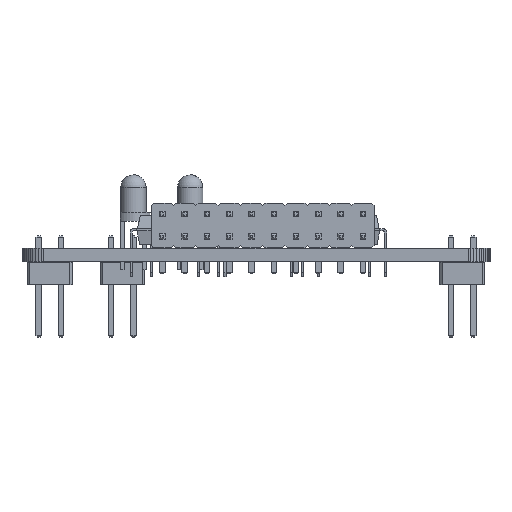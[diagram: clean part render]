
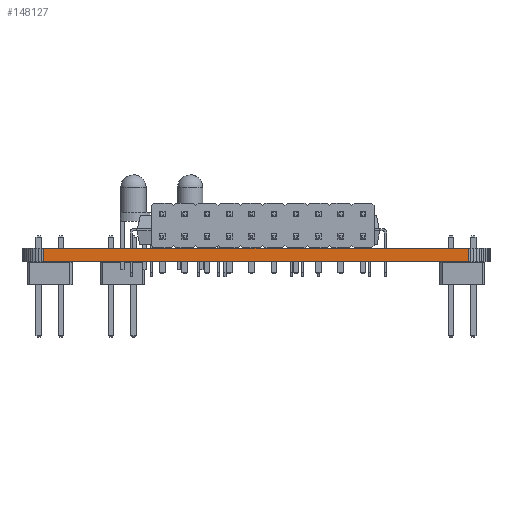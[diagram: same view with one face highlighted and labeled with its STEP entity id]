
A CAD part, front view. The second image highlights one B-rep face of the part: STEP entity #148127.
In plain terms, the highlighted planar face has unit normal (0, -1, 0).
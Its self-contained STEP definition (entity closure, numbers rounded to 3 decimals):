
#131141 = PLANE('',#131142);
#131142 = AXIS2_PLACEMENT_3D('',#131143,#131144,#131145);
#131143 = CARTESIAN_POINT('',(125.782,-74.509,1.58));
#131144 = DIRECTION('',(-0.,-0.,-1.));
#131145 = DIRECTION('',(-1.,0.,0.));
#131195 = PLANE('',#131196);
#131196 = AXIS2_PLACEMENT_3D('',#131197,#131198,#131199);
#131197 = CARTESIAN_POINT('',(125.782,-74.509,0.));
#131198 = DIRECTION('',(-0.,-0.,-1.));
#131199 = DIRECTION('',(-1.,0.,0.));
#132732 = VERTEX_POINT('',#132733);
#132733 = CARTESIAN_POINT('',(150.535,-114.935,0.));
#132747 = PLANE('',#132748);
#132748 = AXIS2_PLACEMENT_3D('',#132749,#132750,#132751);
#132749 = CARTESIAN_POINT('',(150.861,-114.914,0.));
#132750 = DIRECTION('',(0.065,-0.998,0.));
#132751 = DIRECTION('',(-0.998,-0.065,0.));
#132759 = EDGE_CURVE('',#132732,#132760,#132762,.T.);
#132760 = VERTEX_POINT('',#132761);
#132761 = CARTESIAN_POINT('',(102.195,-114.935,0.));
#132762 = SURFACE_CURVE('',#132763,(#132767,#132774),.PCURVE_S1.);
#132763 = LINE('',#132764,#132765);
#132764 = CARTESIAN_POINT('',(150.535,-114.935,0.));
#132765 = VECTOR('',#132766,1.);
#132766 = DIRECTION('',(-1.,0.,0.));
#132767 = PCURVE('',#131195,#132768);
#132768 = DEFINITIONAL_REPRESENTATION('',(#132769),#132773);
#132769 = LINE('',#132770,#132771);
#132770 = CARTESIAN_POINT('',(-24.753,-40.426));
#132771 = VECTOR('',#132772,1.);
#132772 = DIRECTION('',(1.,0.));
#132773 = ( GEOMETRIC_REPRESENTATION_CONTEXT(2) 
PARAMETRIC_REPRESENTATION_CONTEXT() REPRESENTATION_CONTEXT('2D SPACE',''
  ) );
#132774 = PCURVE('',#132775,#132780);
#132775 = PLANE('',#132776);
#132776 = AXIS2_PLACEMENT_3D('',#132777,#132778,#132779);
#132777 = CARTESIAN_POINT('',(150.535,-114.935,0.));
#132778 = DIRECTION('',(0.,-1.,0.));
#132779 = DIRECTION('',(-1.,0.,0.));
#132780 = DEFINITIONAL_REPRESENTATION('',(#132781),#132785);
#132781 = LINE('',#132782,#132783);
#132782 = CARTESIAN_POINT('',(0.,-0.));
#132783 = VECTOR('',#132784,1.);
#132784 = DIRECTION('',(1.,0.));
#132785 = ( GEOMETRIC_REPRESENTATION_CONTEXT(2) 
PARAMETRIC_REPRESENTATION_CONTEXT() REPRESENTATION_CONTEXT('2D SPACE',''
  ) );
#132803 = PLANE('',#132804);
#132804 = AXIS2_PLACEMENT_3D('',#132805,#132806,#132807);
#132805 = CARTESIAN_POINT('',(102.195,-114.935,0.));
#132806 = DIRECTION('',(-0.065,-0.998,0.));
#132807 = DIRECTION('',(-0.998,0.065,0.));
#140802 = VERTEX_POINT('',#140803);
#140803 = CARTESIAN_POINT('',(150.535,-114.935,1.58));
#140824 = EDGE_CURVE('',#140802,#140825,#140827,.T.);
#140825 = VERTEX_POINT('',#140826);
#140826 = CARTESIAN_POINT('',(102.195,-114.935,1.58));
#140827 = SURFACE_CURVE('',#140828,(#140832,#140839),.PCURVE_S1.);
#140828 = LINE('',#140829,#140830);
#140829 = CARTESIAN_POINT('',(150.535,-114.935,1.58));
#140830 = VECTOR('',#140831,1.);
#140831 = DIRECTION('',(-1.,0.,0.));
#140832 = PCURVE('',#131141,#140833);
#140833 = DEFINITIONAL_REPRESENTATION('',(#140834),#140838);
#140834 = LINE('',#140835,#140836);
#140835 = CARTESIAN_POINT('',(-24.753,-40.426));
#140836 = VECTOR('',#140837,1.);
#140837 = DIRECTION('',(1.,0.));
#140838 = ( GEOMETRIC_REPRESENTATION_CONTEXT(2) 
PARAMETRIC_REPRESENTATION_CONTEXT() REPRESENTATION_CONTEXT('2D SPACE',''
  ) );
#140839 = PCURVE('',#132775,#140840);
#140840 = DEFINITIONAL_REPRESENTATION('',(#140841),#140845);
#140841 = LINE('',#140842,#140843);
#140842 = CARTESIAN_POINT('',(0.,-1.58));
#140843 = VECTOR('',#140844,1.);
#140844 = DIRECTION('',(1.,0.));
#140845 = ( GEOMETRIC_REPRESENTATION_CONTEXT(2) 
PARAMETRIC_REPRESENTATION_CONTEXT() REPRESENTATION_CONTEXT('2D SPACE',''
  ) );
#148077 = EDGE_CURVE('',#132760,#140825,#148078,.T.);
#148078 = SURFACE_CURVE('',#148079,(#148083,#148090),.PCURVE_S1.);
#148079 = LINE('',#148080,#148081);
#148080 = CARTESIAN_POINT('',(102.195,-114.935,0.));
#148081 = VECTOR('',#148082,1.);
#148082 = DIRECTION('',(0.,0.,1.));
#148083 = PCURVE('',#132803,#148084);
#148084 = DEFINITIONAL_REPRESENTATION('',(#148085),#148089);
#148085 = LINE('',#148086,#148087);
#148086 = CARTESIAN_POINT('',(0.,0.));
#148087 = VECTOR('',#148088,1.);
#148088 = DIRECTION('',(0.,-1.));
#148089 = ( GEOMETRIC_REPRESENTATION_CONTEXT(2) 
PARAMETRIC_REPRESENTATION_CONTEXT() REPRESENTATION_CONTEXT('2D SPACE',''
  ) );
#148090 = PCURVE('',#132775,#148091);
#148091 = DEFINITIONAL_REPRESENTATION('',(#148092),#148096);
#148092 = LINE('',#148093,#148094);
#148093 = CARTESIAN_POINT('',(48.34,0.));
#148094 = VECTOR('',#148095,1.);
#148095 = DIRECTION('',(0.,-1.));
#148096 = ( GEOMETRIC_REPRESENTATION_CONTEXT(2) 
PARAMETRIC_REPRESENTATION_CONTEXT() REPRESENTATION_CONTEXT('2D SPACE',''
  ) );
#148127 = ADVANCED_FACE('',(#148128),#132775,.T.);
#148128 = FACE_BOUND('',#148129,.T.);
#148129 = EDGE_LOOP('',(#148130,#148151,#148152,#148153));
#148130 = ORIENTED_EDGE('',*,*,#148131,.T.);
#148131 = EDGE_CURVE('',#132732,#140802,#148132,.T.);
#148132 = SURFACE_CURVE('',#148133,(#148137,#148144),.PCURVE_S1.);
#148133 = LINE('',#148134,#148135);
#148134 = CARTESIAN_POINT('',(150.535,-114.935,0.));
#148135 = VECTOR('',#148136,1.);
#148136 = DIRECTION('',(0.,0.,1.));
#148137 = PCURVE('',#132775,#148138);
#148138 = DEFINITIONAL_REPRESENTATION('',(#148139),#148143);
#148139 = LINE('',#148140,#148141);
#148140 = CARTESIAN_POINT('',(0.,-0.));
#148141 = VECTOR('',#148142,1.);
#148142 = DIRECTION('',(0.,-1.));
#148143 = ( GEOMETRIC_REPRESENTATION_CONTEXT(2) 
PARAMETRIC_REPRESENTATION_CONTEXT() REPRESENTATION_CONTEXT('2D SPACE',''
  ) );
#148144 = PCURVE('',#132747,#148145);
#148145 = DEFINITIONAL_REPRESENTATION('',(#148146),#148150);
#148146 = LINE('',#148147,#148148);
#148147 = CARTESIAN_POINT('',(0.327,0.));
#148148 = VECTOR('',#148149,1.);
#148149 = DIRECTION('',(0.,-1.));
#148150 = ( GEOMETRIC_REPRESENTATION_CONTEXT(2) 
PARAMETRIC_REPRESENTATION_CONTEXT() REPRESENTATION_CONTEXT('2D SPACE',''
  ) );
#148151 = ORIENTED_EDGE('',*,*,#140824,.T.);
#148152 = ORIENTED_EDGE('',*,*,#148077,.F.);
#148153 = ORIENTED_EDGE('',*,*,#132759,.F.);
